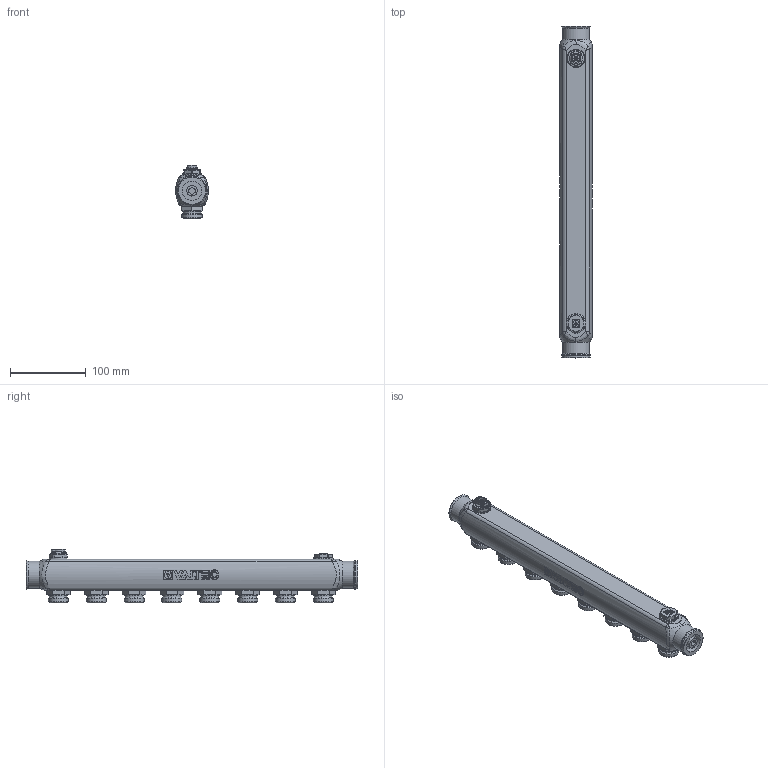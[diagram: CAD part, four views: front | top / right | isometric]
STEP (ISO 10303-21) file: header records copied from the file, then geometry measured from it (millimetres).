
FILE_DESCRIPTION(('STEP AP203'), '1');
FILE_NAME('覆.622621.035.000 捘 - VTc.505.SS.060508', '2024-08-29T13:34:03', ('Boss'), (''), 'C3D Converter', 'C3D Toolkit', '');
FILE_SCHEMA(('CONFIG_CONTROL_DESIGN'));
Length unit declared in the file: millimetre
Products named in the file (1): ВР.622621.035.000 СБ
Bounding box: 43 x 438.5 x 71.1 mm (x, y, z)
Volume: 616575.8 mm3; surface area: 175749.5 mm2
Topology: 1 solids, 28 shells, 871 faces, 2082 edges, 1300 vertices
Faces by surface type: plane 342, cylinder 231, cone 117, bspline 96, torus 85
Full cylindrical faces by diameter (mm): 5 x1, 5.3 x1, 10.2 x1, 12.5 x8, 14 x1, 18.1 x8, 22 x1, 23.5 x8, 24 x1, 25.5 x1, 26 x1, 26.441 x8, 30.292 x1, 35.5 x2, 37 x1
Entity records: 59756 total; most frequent: CARTESIAN_POINT 41531, ORIENTED_EDGE 3880, DIRECTION 3340, EDGE_CURVE 1940, AXIS2_PLACEMENT_3D 1365, VERTEX_POINT 1303, EDGE_LOOP 1037, FACE_BOUND 892
